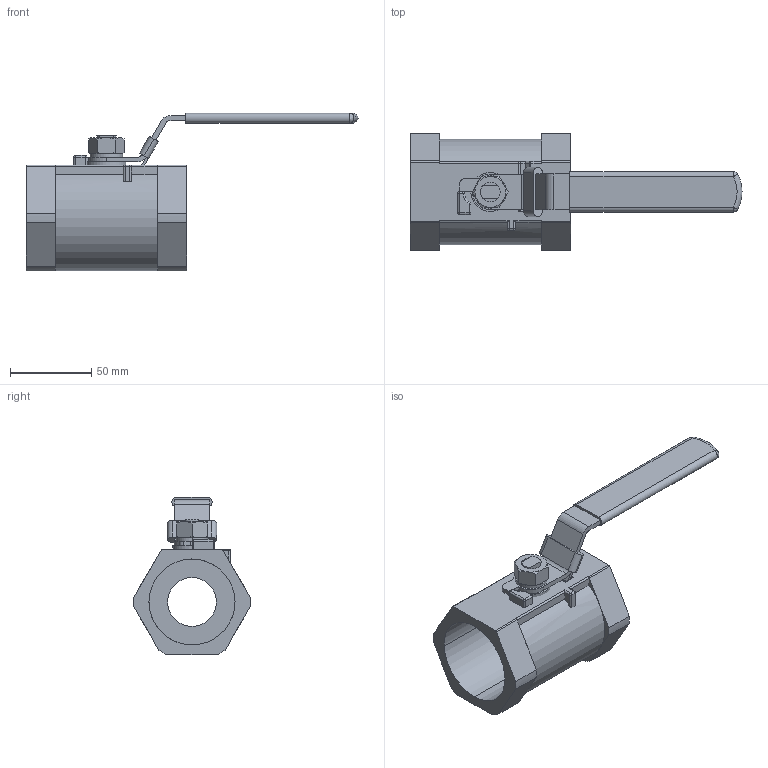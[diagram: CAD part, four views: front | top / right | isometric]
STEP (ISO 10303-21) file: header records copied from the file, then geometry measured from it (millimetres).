
FILE_DESCRIPTION( (''), '2;1');
FILE_NAME ('PC1276.13404.BLV-1S 50A_17704.stp','2025-09-19T13:30:10',(''),(''),'spGate 20.6.3 (****-****-****-****)','','');
FILE_SCHEMA (('AUTOMOTIVE_DESIGN'));
Length unit declared in the file: millimetre
Products named in the file (6): Assembly; CP_''_JIS B 1181 六角ナット 2種 上 ''_700; CP_''_JIS B 1256 小形-部品等級A 1''_17239; CP_''_JIS B 1256 並形-部品等級A 1''_17240; body_casting_SCS13A_50A; BLV-1S 50A ハンドル
Assembly tree (5 placements, depth 2):
  Assembly
    CP_''_JIS B 1181 六角ナット 2種 上 ''_700
    CP_''_JIS B 1256 小形-部品等級A 1''_17239
    CP_''_JIS B 1256 並形-部品等級A 1''_17240
    body_casting_SCS13A_50A
    BLV-1S 50A ハンドル
Bounding box: 204.5 x 71.97 x 97 mm (x, y, z)
Volume: 164533.9 mm3; surface area: 58303.6 mm2
Topology: 5 solids, 5 shells, 183 faces, 452 edges, 274 vertices
Faces by surface type: plane 84, cylinder 74, bspline 14, sphere 11
Entity records: 9294 total; most frequent: CARTESIAN_POINT 1277, DIRECTION 912, ORIENTED_EDGE 880, COLOUR_RGB 628, PRESENTATION_STYLE_ASSIGNMENT 628, STYLED_ITEM 628, EDGE_CURVE 440, DRAUGHTING_PRE_DEFINED_CURVE_FONT 440
